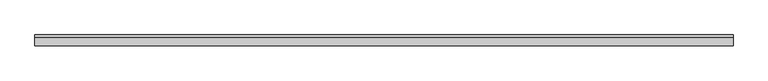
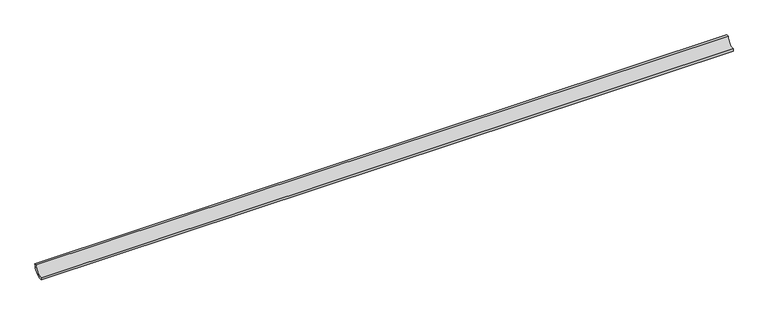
"""IFC4 building model written with IfcOpenShell, lengths in millimetres: proxy geometry, EXAGRES - Piscina Mediacaña : Publica_Azul_24.5x4cm."""

from ifc_helpers import new_model, si_unit, point, frame, frame_2d, origin, place, context, project, spatial, polyline, circle_curve, trimmed, segment, composite_curve, outline, extrude, source, transform, mapped, element, save


def generic_models_0ded9d30(model_context):
    return source(origin(), model_context, "Body", "SweptSolid", [
        extrude(outline(composite_curve([segment(polyline([(0.0, 23.9), (6.4, 23.9)]), True, "CONTINUOUS"), segment(trimmed(circle_curve(frame_2d((-23.9, 23.9)), 30.3), [point((6.4, 23.9))], [point((-23.9, -6.4))], False, "CARTESIAN"), True, "CONTINUOUS"), segment(polyline([(-23.9, -6.4), (-23.9, 0.0)]), True, "CONTINUOUS"), segment(trimmed(circle_curve(frame_2d((-23.9, 23.9)), 23.9), [point((-23.9, 0.0))], [point((0.0, 23.9))], True, "CARTESIAN"), True, "CONTINUOUS")], self_intersect=False)), frame((0.0, 0.0, 0.0), z_axis=(1.0, 0.0, 0.0), x_axis=(0.0, 1.0, 0.0)), (0.0, 0.0, 1.0), 1971.1011128),
    ])


if __name__ == "__main__":
    model = new_model("IFC4")
    model_context = context("Model", 3, world=origin())
    ifc_project = project(units=[si_unit("LENGTHUNIT", "METRE", prefix="MILLI")], contexts=[model_context])
    site = spatial("IfcSite", under=ifc_project)
    building = spatial("IfcBuilding", under=site)
    placement = place(None, origin())
    generic_models_shape = generic_models_0ded9d30(model_context)
    element("IfcBuildingElementProxy", 1, Name="EXAGRES - Piscina Mediacaña : Publica_Azul_24.5x4cm", ObjectType="EXAGRES - Piscina Mediacaña : Publica_Azul_24.5x4cm", at=placement, inside=building, context=model_context, shape_type="MappedRepresentation", body=[
        mapped(generic_models_shape, transform((0.0, 0.0, 0.0), x_axis=(1.0, 0.0, 0.0), y_axis=(0.0, 1.0, 0.0), z_axis=(0.0, 0.0, 1.0))),
    ])
    save(model, "model.ifc")
